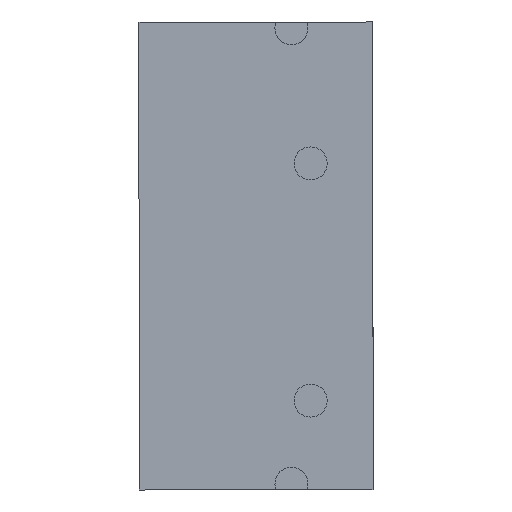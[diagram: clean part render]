
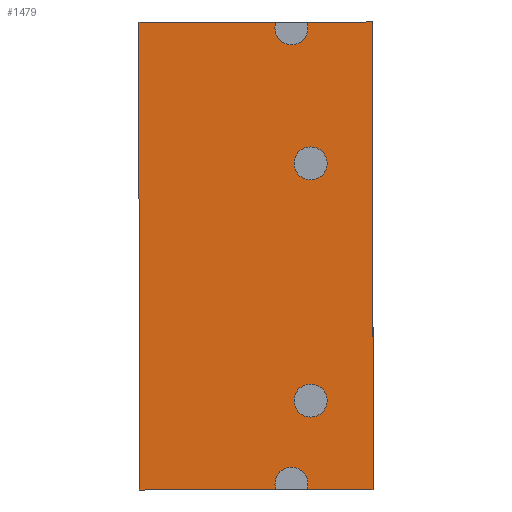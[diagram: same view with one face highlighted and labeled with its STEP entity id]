
A CAD part, left-side view. The second image highlights one B-rep face of the part: STEP entity #1479.
In plain terms, the highlighted planar face has unit normal (-1, 0, 0).
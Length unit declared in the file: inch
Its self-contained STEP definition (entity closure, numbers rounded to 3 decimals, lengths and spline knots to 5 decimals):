
#38 = ORIENTED_EDGE ( 'NONE', *, *, #1095, .F. ) ;
#43 = VECTOR ( 'NONE', #1675, 39.37008 ) ;
#96 = LINE ( 'NONE', #807, #2061 ) ;
#157 = ORIENTED_EDGE ( 'NONE', *, *, #442, .F. ) ;
#234 = FACE_OUTER_BOUND ( 'NONE', #1526, .T. ) ;
#288 = VERTEX_POINT ( 'NONE', #2920 ) ;
#404 = EDGE_CURVE ( 'NONE', #1433, #3239, #1235, .T. ) ;
#424 = ORIENTED_EDGE ( 'NONE', *, *, #708, .F. ) ;
#438 = CIRCLE ( 'NONE', #920, 0.0795 ) ;
#442 = EDGE_CURVE ( 'NONE', #3338, #1511, #438, .T. ) ;
#445 = EDGE_LOOP ( 'NONE', ( #3315, #38 ) ) ;
#461 = EDGE_CURVE ( 'NONE', #1511, #3338, #2943, .T. ) ;
#492 = EDGE_CURVE ( 'NONE', #2702, #3075, #1005, .T. ) ;
#556 = ORIENTED_EDGE ( 'NONE', *, *, #404, .F. ) ;
#562 = EDGE_CURVE ( 'NONE', #3275, #3087, #915, .T. ) ;
#585 = EDGE_CURVE ( 'NONE', #610, #288, #1086, .T. ) ;
#610 = VERTEX_POINT ( 'NONE', #1507 ) ;
#633 = CARTESIAN_POINT ( 'NONE',  ( -1.427, -1.125, 0. ) ) ;
#679 = DIRECTION ( 'NONE',  ( 0., -1., 0. ) ) ;
#683 = CARTESIAN_POINT ( 'NONE',  ( -1.427, 0., -0.5625 ) ) ;
#700 = DIRECTION ( 'NONE',  ( 0., 0., 1. ) ) ;
#703 = CARTESIAN_POINT ( 'NONE',  ( -1.427, -1.125, 0. ) ) ;
#708 = EDGE_CURVE ( 'NONE', #3239, #610, #1125, .T. ) ;
#718 = AXIS2_PLACEMENT_3D ( 'NONE', #1629, #1625, #1610 ) ;
#727 = DIRECTION ( 'NONE',  ( 0., 0., 1. ) ) ;
#766 = EDGE_CURVE ( 'NONE', #1847, #1433, #96, .T. ) ;
#770 = AXIS2_PLACEMENT_3D ( 'NONE', #1777, #1768, #1765 ) ;
#774 = EDGE_CURVE ( 'NONE', #1847, #1544, #3348, .T. ) ;
#777 = EDGE_CURVE ( 'NONE', #1544, #3087, #2735, .T. ) ;
#805 = EDGE_CURVE ( 'NONE', #2008, #288, #2664, .T. ) ;
#807 = CARTESIAN_POINT ( 'NONE',  ( -1.427, 1.125, 0. ) ) ;
#812 = DIRECTION ( 'NONE',  ( 0., 0., 1. ) ) ;
#835 = AXIS2_PLACEMENT_3D ( 'NONE', #1888, #1882, #1876 ) ;
#840 = ORIENTED_EDGE ( 'NONE', *, *, #805, .T. ) ;
#880 = EDGE_LOOP ( 'NONE', ( #2849, #157 ) ) ;
#915 = CIRCLE ( 'NONE', #718, 0.0795 ) ;
#920 = AXIS2_PLACEMENT_3D ( 'NONE', #1969, #1959, #1954 ) ;
#939 = AXIS2_PLACEMENT_3D ( 'NONE', #2166, #2165, #2162 ) ;
#982 = CARTESIAN_POINT ( 'NONE',  ( -1.427, 1.125, 0. ) ) ;
#1005 = CIRCLE ( 'NONE', #770, 0.0795 ) ;
#1078 = FACE_BOUND ( 'NONE', #445, .T. ) ;
#1079 = ORIENTED_EDGE ( 'NONE', *, *, #777, .T. ) ;
#1086 = LINE ( 'NONE', #1716, #43 ) ;
#1095 = EDGE_CURVE ( 'NONE', #3075, #2702, #1968, .T. ) ;
#1125 = LINE ( 'NONE', #982, #1828 ) ;
#1152 = DIRECTION ( 'NONE',  ( 0., 0., 1. ) ) ;
#1177 = DIRECTION ( 'NONE',  ( 0., -1., 0. ) ) ;
#1225 = CARTESIAN_POINT ( 'NONE',  ( -1.427, -0.445, -0.2625 ) ) ;
#1235 = CIRCLE ( 'NONE', #939, 0.0795 ) ;
#1263 = CIRCLE ( 'NONE', #1672, 0.0795 ) ;
#1277 = CARTESIAN_POINT ( 'NONE',  ( -1.427, -0.5245, -0.2625 ) ) ;
#1287 = DIRECTION ( 'NONE',  ( -1., 0., 0. ) ) ;
#1433 = VERTEX_POINT ( 'NONE', #2603 ) ;
#1462 = VECTOR ( 'NONE', #679, 39.37008 ) ;
#1479 = ADVANCED_FACE ( 'NONE', ( #1078, #1646, #234 ), #2511, .F. ) ;
#1507 = CARTESIAN_POINT ( 'NONE',  ( -1.427, 1.125, 0.5625 ) ) ;
#1511 = VERTEX_POINT ( 'NONE', #2308 ) ;
#1526 = EDGE_LOOP ( 'NONE', ( #556, #2182, #3093, #1079, #3164, #2459, #840, #1564, #424 ) ) ;
#1544 = VERTEX_POINT ( 'NONE', #2158 ) ;
#1564 = ORIENTED_EDGE ( 'NONE', *, *, #585, .F. ) ;
#1589 = EDGE_CURVE ( 'NONE', #2008, #3275, #1263, .T. ) ;
#1606 = CARTESIAN_POINT ( 'NONE',  ( -1.427, -1.125, -0.24412 ) ) ;
#1610 = DIRECTION ( 'NONE',  ( 0., 1., 0. ) ) ;
#1611 = CARTESIAN_POINT ( 'NONE',  ( -1.427, -0.3655, -0.2625 ) ) ;
#1615 = VECTOR ( 'NONE', #700, 39.37008 ) ;
#1625 = DIRECTION ( 'NONE',  ( -1., 0., 0. ) ) ;
#1629 = CARTESIAN_POINT ( 'NONE',  ( -1.427, -1.095, -0.1705 ) ) ;
#1646 = FACE_BOUND ( 'NONE', #880, .T. ) ;
#1672 = AXIS2_PLACEMENT_3D ( 'NONE', #1715, #1714, #1705 ) ;
#1675 = DIRECTION ( 'NONE',  ( 0., -1., 0. ) ) ;
#1705 = DIRECTION ( 'NONE',  ( 0., 1., 0. ) ) ;
#1714 = DIRECTION ( 'NONE',  ( -1., 0., 0. ) ) ;
#1715 = CARTESIAN_POINT ( 'NONE',  ( -1.427, -1.095, -0.1705 ) ) ;
#1716 = CARTESIAN_POINT ( 'NONE',  ( -1.427, 0., 0.5625 ) ) ;
#1765 = DIRECTION ( 'NONE',  ( 0., -1., 0. ) ) ;
#1768 = DIRECTION ( 'NONE',  ( -1., 0., 0. ) ) ;
#1777 = CARTESIAN_POINT ( 'NONE',  ( -1.427, -0.445, -0.2625 ) ) ;
#1797 = CARTESIAN_POINT ( 'NONE',  ( -1.427, 1.125, -0.09688 ) ) ;
#1805 = CARTESIAN_POINT ( 'NONE',  ( -1.427, -1.0155, -0.1705 ) ) ;
#1823 = CARTESIAN_POINT ( 'NONE',  ( -1.427, 0.7745, -0.2625 ) ) ;
#1828 = VECTOR ( 'NONE', #1152, 39.37008 ) ;
#1847 = VERTEX_POINT ( 'NONE', #2050 ) ;
#1876 = DIRECTION ( 'NONE',  ( 0., -1., 0. ) ) ;
#1882 = DIRECTION ( 'NONE',  ( -1., 0., 0. ) ) ;
#1888 = CARTESIAN_POINT ( 'NONE',  ( -1.427, 0.695, -0.2625 ) ) ;
#1954 = DIRECTION ( 'NONE',  ( 0., -1., 0. ) ) ;
#1959 = DIRECTION ( 'NONE',  ( -1., 0., 0. ) ) ;
#1968 = CIRCLE ( 'NONE', #3247, 0.0795 ) ;
#1969 = CARTESIAN_POINT ( 'NONE',  ( -1.427, 0.695, -0.2625 ) ) ;
#1998 = VECTOR ( 'NONE', #727, 39.37008 ) ;
#2008 = VERTEX_POINT ( 'NONE', #2365 ) ;
#2050 = CARTESIAN_POINT ( 'NONE',  ( -1.427, 1.125, -0.5625 ) ) ;
#2061 = VECTOR ( 'NONE', #812, 39.37008 ) ;
#2107 = AXIS2_PLACEMENT_3D ( 'NONE', #2415, #2366, #2364 ) ;
#2158 = CARTESIAN_POINT ( 'NONE',  ( -1.427, -1.125, -0.5625 ) ) ;
#2162 = DIRECTION ( 'NONE',  ( 0., 1., 0. ) ) ;
#2165 = DIRECTION ( 'NONE',  ( -1., 0., 0. ) ) ;
#2166 = CARTESIAN_POINT ( 'NONE',  ( -1.427, 1.095, -0.1705 ) ) ;
#2182 = ORIENTED_EDGE ( 'NONE', *, *, #766, .F. ) ;
#2308 = CARTESIAN_POINT ( 'NONE',  ( -1.427, 0.6155, -0.2625 ) ) ;
#2364 = DIRECTION ( 'NONE',  ( 0., 0., -1. ) ) ;
#2365 = CARTESIAN_POINT ( 'NONE',  ( -1.427, -1.125, -0.09688 ) ) ;
#2366 = DIRECTION ( 'NONE',  ( 1., 0., 0. ) ) ;
#2415 = CARTESIAN_POINT ( 'NONE',  ( -1.427, 0., 0. ) ) ;
#2459 = ORIENTED_EDGE ( 'NONE', *, *, #1589, .F. ) ;
#2511 = PLANE ( 'NONE',  #2107 ) ;
#2603 = CARTESIAN_POINT ( 'NONE',  ( -1.427, 1.125, -0.24412 ) ) ;
#2664 = LINE ( 'NONE', #633, #1615 ) ;
#2702 = VERTEX_POINT ( 'NONE', #1277 ) ;
#2735 = LINE ( 'NONE', #703, #1998 ) ;
#2849 = ORIENTED_EDGE ( 'NONE', *, *, #461, .F. ) ;
#2920 = CARTESIAN_POINT ( 'NONE',  ( -1.427, -1.125, 0.5625 ) ) ;
#2943 = CIRCLE ( 'NONE', #835, 0.0795 ) ;
#3075 = VERTEX_POINT ( 'NONE', #1611 ) ;
#3087 = VERTEX_POINT ( 'NONE', #1606 ) ;
#3093 = ORIENTED_EDGE ( 'NONE', *, *, #774, .T. ) ;
#3164 = ORIENTED_EDGE ( 'NONE', *, *, #562, .F. ) ;
#3239 = VERTEX_POINT ( 'NONE', #1797 ) ;
#3247 = AXIS2_PLACEMENT_3D ( 'NONE', #1225, #1287, #1177 ) ;
#3275 = VERTEX_POINT ( 'NONE', #1805 ) ;
#3315 = ORIENTED_EDGE ( 'NONE', *, *, #492, .F. ) ;
#3338 = VERTEX_POINT ( 'NONE', #1823 ) ;
#3348 = LINE ( 'NONE', #683, #1462 ) ;
